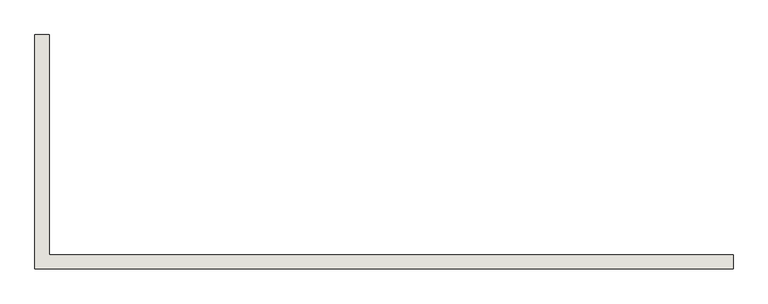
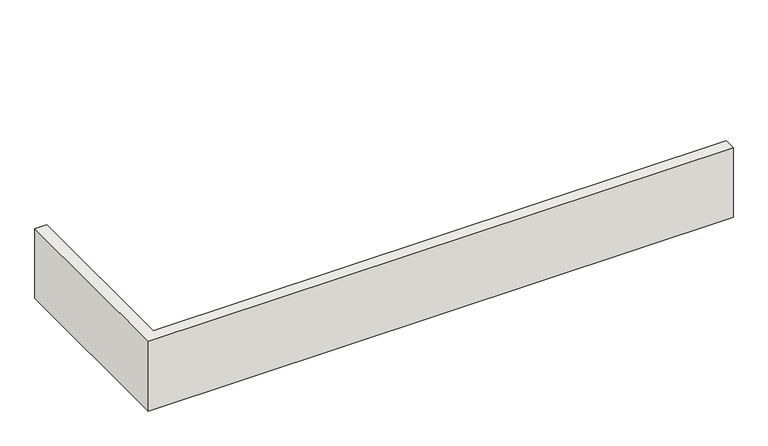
"""IFC4 building model written with IfcOpenShell, lengths in millimetres: wall geometry, 墙 3 : 墙 3."""

from ifc_helpers import new_model, si_unit, frame, origin, place, context, project, spatial, polyline, outline, extrude, source, transform, mapped, element, save


def wall_ebd0b002(model_context):
    return source(origin(), model_context, "Body", "SweptSolid", [
        extrude(outline(polyline([(26565.1052473, -8748.768361), (26645.1052473, -8748.768361), (26645.1052473, -9998.768361), (30525.1052473, -9998.768361), (30525.1052473, -10078.768361), (26565.1052473, -10078.768361), (26565.1052473, -8748.768361)])), frame((0.0, 0.0, 3300.0), z_axis=(0.0, 0.0, 1.0), x_axis=(1.0, 0.0, 0.0)), (0.0, 0.0, 1.0), 500.0),
    ])


if __name__ == "__main__":
    model = new_model("IFC4")
    model_context = context("Model", 3, world=origin())
    ifc_project = project(units=[si_unit("LENGTHUNIT", "METRE", prefix="MILLI")], contexts=[model_context])
    site = spatial("IfcSite", under=ifc_project)
    building = spatial("IfcBuilding", under=site)
    placement = place(None, origin())
    wall_shape = wall_ebd0b002(model_context)
    element("IfcWall", 1, ObjectType="墙 3 : 墙 3", at=placement, inside=building, context=model_context, shape_type="MappedRepresentation", body=[
        mapped(wall_shape, transform((0.0, 0.0, 0.0), x_axis=(1.0, 0.0, 0.0), y_axis=(0.0, 1.0, 0.0), z_axis=(0.0, 0.0, 1.0))),
    ])
    save(model, "model.ifc")
